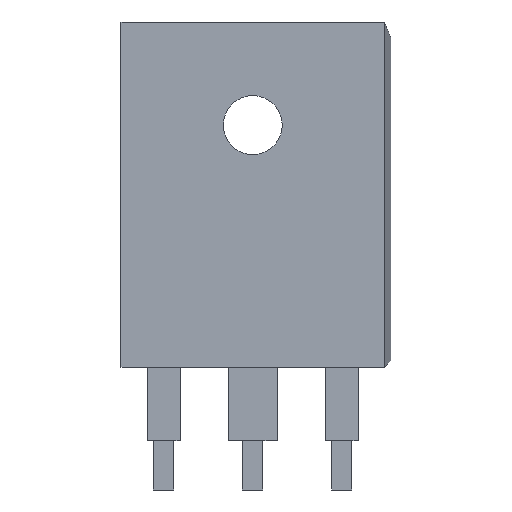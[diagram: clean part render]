
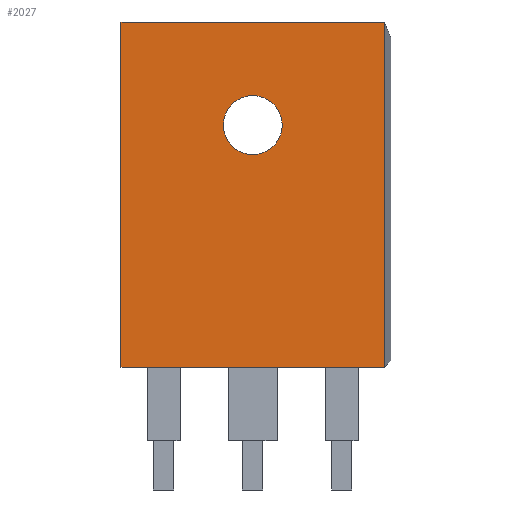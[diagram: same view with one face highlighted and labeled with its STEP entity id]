
A CAD part, left-side view. The second image highlights one B-rep face of the part: STEP entity #2027.
In plain terms, the highlighted planar face has unit normal (-1, 0, 0).
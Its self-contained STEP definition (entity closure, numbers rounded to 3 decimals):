
#369 = PLANE('',#370);
#370 = AXIS2_PLACEMENT_3D('',#371,#372,#373);
#371 = CARTESIAN_POINT('',(-2.825,-8.05,4.5));
#372 = DIRECTION('',(0.,0.,1.));
#373 = DIRECTION('',(1.,0.,0.));
#924 = PLANE('',#925);
#925 = AXIS2_PLACEMENT_3D('',#926,#927,#928);
#926 = CARTESIAN_POINT('',(-2.825,8.05,4.5));
#927 = DIRECTION('',(0.,1.,0.));
#928 = DIRECTION('',(0.,0.,1.));
#988 = EDGE_CURVE('',#989,#991,#993,.T.);
#989 = VERTEX_POINT('',#990);
#990 = CARTESIAN_POINT('',(-2.825,-8.05,4.5));
#991 = VERTEX_POINT('',#992);
#992 = CARTESIAN_POINT('',(-2.825,8.05,4.5));
#993 = SURFACE_CURVE('',#994,(#998,#1005),.PCURVE_S1.);
#994 = LINE('',#995,#996);
#995 = CARTESIAN_POINT('',(-2.825,-8.05,4.5));
#996 = VECTOR('',#997,1.);
#997 = DIRECTION('',(0.,1.,0.));
#998 = PCURVE('',#369,#999);
#999 = DEFINITIONAL_REPRESENTATION('',(#1000),#1004);
#1000 = LINE('',#1001,#1002);
#1001 = CARTESIAN_POINT('',(0.,0.));
#1002 = VECTOR('',#1003,1.);
#1003 = DIRECTION('',(0.,1.));
#1004 = ( GEOMETRIC_REPRESENTATION_CONTEXT(2) 
PARAMETRIC_REPRESENTATION_CONTEXT() REPRESENTATION_CONTEXT('2D SPACE',''
  ) );
#1005 = PCURVE('',#1006,#1011);
#1006 = PLANE('',#1007);
#1007 = AXIS2_PLACEMENT_3D('',#1008,#1009,#1010);
#1008 = CARTESIAN_POINT('',(-2.825,-8.05,4.5));
#1009 = DIRECTION('',(1.,0.,0.));
#1010 = DIRECTION('',(0.,0.,1.));
#1011 = DEFINITIONAL_REPRESENTATION('',(#1012),#1016);
#1012 = LINE('',#1013,#1014);
#1013 = CARTESIAN_POINT('',(0.,0.));
#1014 = VECTOR('',#1015,1.);
#1015 = DIRECTION('',(0.,-1.));
#1016 = ( GEOMETRIC_REPRESENTATION_CONTEXT(2) 
PARAMETRIC_REPRESENTATION_CONTEXT() REPRESENTATION_CONTEXT('2D SPACE',''
  ) );
#1032 = PLANE('',#1033);
#1033 = AXIS2_PLACEMENT_3D('',#1034,#1035,#1036);
#1034 = CARTESIAN_POINT('',(-2.825,-8.05,4.5));
#1035 = DIRECTION('',(0.,1.,0.));
#1036 = DIRECTION('',(0.,0.,1.));
#1138 = CYLINDRICAL_SURFACE('',#1139,1.8);
#1139 = AXIS2_PLACEMENT_3D('',#1140,#1141,#1142);
#1140 = CARTESIAN_POINT('',(-5.,0.,19.3));
#1141 = DIRECTION('',(-1.,-0.,0.));
#1142 = DIRECTION('',(0.,0.,-1.));
#1951 = EDGE_CURVE('',#991,#1952,#1954,.T.);
#1952 = VERTEX_POINT('',#1953);
#1953 = CARTESIAN_POINT('',(-2.825,8.05,25.6));
#1954 = SURFACE_CURVE('',#1955,(#1959,#1966),.PCURVE_S1.);
#1955 = LINE('',#1956,#1957);
#1956 = CARTESIAN_POINT('',(-2.825,8.05,4.5));
#1957 = VECTOR('',#1958,1.);
#1958 = DIRECTION('',(0.,0.,1.));
#1959 = PCURVE('',#924,#1960);
#1960 = DEFINITIONAL_REPRESENTATION('',(#1961),#1965);
#1961 = LINE('',#1962,#1963);
#1962 = CARTESIAN_POINT('',(0.,0.));
#1963 = VECTOR('',#1964,1.);
#1964 = DIRECTION('',(1.,0.));
#1965 = ( GEOMETRIC_REPRESENTATION_CONTEXT(2) 
PARAMETRIC_REPRESENTATION_CONTEXT() REPRESENTATION_CONTEXT('2D SPACE',''
  ) );
#1966 = PCURVE('',#1006,#1967);
#1967 = DEFINITIONAL_REPRESENTATION('',(#1968),#1972);
#1968 = LINE('',#1969,#1970);
#1969 = CARTESIAN_POINT('',(0.,-16.1));
#1970 = VECTOR('',#1971,1.);
#1971 = DIRECTION('',(1.,0.));
#1972 = ( GEOMETRIC_REPRESENTATION_CONTEXT(2) 
PARAMETRIC_REPRESENTATION_CONTEXT() REPRESENTATION_CONTEXT('2D SPACE',''
  ) );
#1988 = PLANE('',#1989);
#1989 = AXIS2_PLACEMENT_3D('',#1990,#1991,#1992);
#1990 = CARTESIAN_POINT('',(-2.825,-8.05,25.6));
#1991 = DIRECTION('',(0.,0.,1.));
#1992 = DIRECTION('',(1.,0.,0.));
#2027 = ADVANCED_FACE('',(#2028,#2076),#1006,.F.);
#2028 = FACE_BOUND('',#2029,.F.);
#2029 = EDGE_LOOP('',(#2030,#2053,#2054,#2055));
#2030 = ORIENTED_EDGE('',*,*,#2031,.F.);
#2031 = EDGE_CURVE('',#989,#2032,#2034,.T.);
#2032 = VERTEX_POINT('',#2033);
#2033 = CARTESIAN_POINT('',(-2.825,-8.05,25.6));
#2034 = SURFACE_CURVE('',#2035,(#2039,#2046),.PCURVE_S1.);
#2035 = LINE('',#2036,#2037);
#2036 = CARTESIAN_POINT('',(-2.825,-8.05,4.5));
#2037 = VECTOR('',#2038,1.);
#2038 = DIRECTION('',(0.,0.,1.));
#2039 = PCURVE('',#1006,#2040);
#2040 = DEFINITIONAL_REPRESENTATION('',(#2041),#2045);
#2041 = LINE('',#2042,#2043);
#2042 = CARTESIAN_POINT('',(0.,0.));
#2043 = VECTOR('',#2044,1.);
#2044 = DIRECTION('',(1.,0.));
#2045 = ( GEOMETRIC_REPRESENTATION_CONTEXT(2) 
PARAMETRIC_REPRESENTATION_CONTEXT() REPRESENTATION_CONTEXT('2D SPACE',''
  ) );
#2046 = PCURVE('',#1032,#2047);
#2047 = DEFINITIONAL_REPRESENTATION('',(#2048),#2052);
#2048 = LINE('',#2049,#2050);
#2049 = CARTESIAN_POINT('',(0.,0.));
#2050 = VECTOR('',#2051,1.);
#2051 = DIRECTION('',(1.,0.));
#2052 = ( GEOMETRIC_REPRESENTATION_CONTEXT(2) 
PARAMETRIC_REPRESENTATION_CONTEXT() REPRESENTATION_CONTEXT('2D SPACE',''
  ) );
#2053 = ORIENTED_EDGE('',*,*,#988,.T.);
#2054 = ORIENTED_EDGE('',*,*,#1951,.T.);
#2055 = ORIENTED_EDGE('',*,*,#2056,.F.);
#2056 = EDGE_CURVE('',#2032,#1952,#2057,.T.);
#2057 = SURFACE_CURVE('',#2058,(#2062,#2069),.PCURVE_S1.);
#2058 = LINE('',#2059,#2060);
#2059 = CARTESIAN_POINT('',(-2.825,-8.05,25.6));
#2060 = VECTOR('',#2061,1.);
#2061 = DIRECTION('',(0.,1.,0.));
#2062 = PCURVE('',#1006,#2063);
#2063 = DEFINITIONAL_REPRESENTATION('',(#2064),#2068);
#2064 = LINE('',#2065,#2066);
#2065 = CARTESIAN_POINT('',(21.1,0.));
#2066 = VECTOR('',#2067,1.);
#2067 = DIRECTION('',(0.,-1.));
#2068 = ( GEOMETRIC_REPRESENTATION_CONTEXT(2) 
PARAMETRIC_REPRESENTATION_CONTEXT() REPRESENTATION_CONTEXT('2D SPACE',''
  ) );
#2069 = PCURVE('',#1988,#2070);
#2070 = DEFINITIONAL_REPRESENTATION('',(#2071),#2075);
#2071 = LINE('',#2072,#2073);
#2072 = CARTESIAN_POINT('',(0.,0.));
#2073 = VECTOR('',#2074,1.);
#2074 = DIRECTION('',(0.,1.));
#2075 = ( GEOMETRIC_REPRESENTATION_CONTEXT(2) 
PARAMETRIC_REPRESENTATION_CONTEXT() REPRESENTATION_CONTEXT('2D SPACE',''
  ) );
#2076 = FACE_BOUND('',#2077,.F.);
#2077 = EDGE_LOOP('',(#2078));
#2078 = ORIENTED_EDGE('',*,*,#2079,.T.);
#2079 = EDGE_CURVE('',#2080,#2080,#2082,.T.);
#2080 = VERTEX_POINT('',#2081);
#2081 = CARTESIAN_POINT('',(-2.825,0.,17.5));
#2082 = SURFACE_CURVE('',#2083,(#2088,#2099),.PCURVE_S1.);
#2083 = CIRCLE('',#2084,1.8);
#2084 = AXIS2_PLACEMENT_3D('',#2085,#2086,#2087);
#2085 = CARTESIAN_POINT('',(-2.825,0.,19.3));
#2086 = DIRECTION('',(-1.,-0.,0.));
#2087 = DIRECTION('',(0.,0.,-1.));
#2088 = PCURVE('',#1006,#2089);
#2089 = DEFINITIONAL_REPRESENTATION('',(#2090),#2098);
#2090 = ( BOUNDED_CURVE() B_SPLINE_CURVE(2,(#2091,#2092,#2093,#2094,
#2095,#2096,#2097),.UNSPECIFIED.,.T.,.F.) B_SPLINE_CURVE_WITH_KNOTS((1,2
    ,2,2,2,1),(-2.094,0.,2.094,4.189,
6.283,8.378),.UNSPECIFIED.) CURVE() 
GEOMETRIC_REPRESENTATION_ITEM() RATIONAL_B_SPLINE_CURVE((1.,0.5,1.,0.5,
1.,0.5,1.)) REPRESENTATION_ITEM('') );
#2091 = CARTESIAN_POINT('',(13.,-8.05));
#2092 = CARTESIAN_POINT('',(13.,-4.932));
#2093 = CARTESIAN_POINT('',(15.7,-6.491));
#2094 = CARTESIAN_POINT('',(18.4,-8.05));
#2095 = CARTESIAN_POINT('',(15.7,-9.609));
#2096 = CARTESIAN_POINT('',(13.,-11.168));
#2097 = CARTESIAN_POINT('',(13.,-8.05));
#2098 = ( GEOMETRIC_REPRESENTATION_CONTEXT(2) 
PARAMETRIC_REPRESENTATION_CONTEXT() REPRESENTATION_CONTEXT('2D SPACE',''
  ) );
#2099 = PCURVE('',#1138,#2100);
#2100 = DEFINITIONAL_REPRESENTATION('',(#2101),#2105);
#2101 = LINE('',#2102,#2103);
#2102 = CARTESIAN_POINT('',(-6.283,-2.175));
#2103 = VECTOR('',#2104,1.);
#2104 = DIRECTION('',(1.,-0.));
#2105 = ( GEOMETRIC_REPRESENTATION_CONTEXT(2) 
PARAMETRIC_REPRESENTATION_CONTEXT() REPRESENTATION_CONTEXT('2D SPACE',''
  ) );
